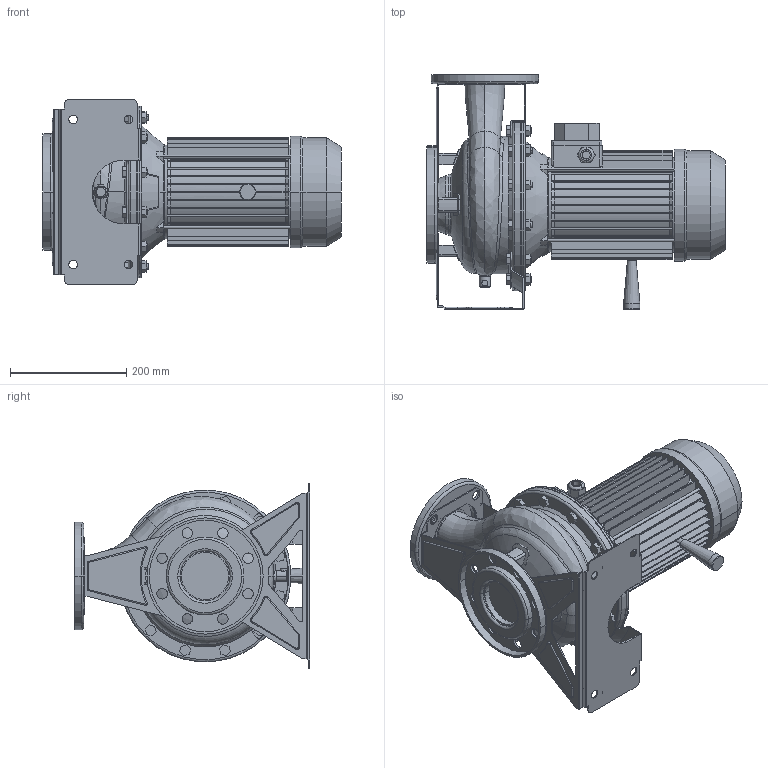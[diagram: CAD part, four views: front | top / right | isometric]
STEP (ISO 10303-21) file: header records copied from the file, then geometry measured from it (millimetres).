
FILE_DESCRIPTION((''),'2;1');
FILE_NAME('3M4_65-200_3_IE2_ASM','2012-03-14T',('Rosa'),('"Ebara Pumps Europe +39.444.706811"'),'PRO/ENGINEER BY PARAMETRIC TECHNOLOGY CORPORATION, 2009360','PRO/ENGINEER BY PARAMETRIC TECHNOLOGY CORPORATION, 2009360','');
FILE_SCHEMA(('AUTOMOTIVE_DESIGN { 1 0 10303 214 1 1 1 1 }'));
Length unit declared in the file: millimetre
Products named in the file (11): CORPO_65-200; ASP_65-200; FLANGIA_DIN_80_8_FORI; MAND_65-200; FLANGIA_DIN_65; BASE_3M_65-200; CORPO_SALDATO_65-200_ASM; SUPPORTO_3M_230_100; MEC_100X170_IE2; 72405; 3M4_65-200_3_IE2_ASM
Assembly tree (10 placements, depth 3):
  3M4_65-200_3_IE2_ASM
    CORPO_SALDATO_65-200_ASM
      CORPO_65-200
      ASP_65-200
      FLANGIA_DIN_80_8_FORI
      MAND_65-200
      FLANGIA_DIN_65
      BASE_3M_65-200
    SUPPORTO_3M_230_100
    MEC_100X170_IE2
    72405
Bounding box: 514 x 405 x 320 mm (x, y, z)
Volume: 11604606.4 mm3; surface area: 1474991.8 mm2
Topology: 12 solids, 12 shells, 1092 faces, 2763 edges, 1762 vertices
Faces by surface type: plane 578, cylinder 313, cone 102, torus 60, bspline 33, sphere 6
Entity records: 47573 total; most frequent: CARTESIAN_POINT 9786, DIRECTION 5680, ORIENTED_EDGE 5526, EDGE_CURVE 2763, PRESENTATION_STYLE_ASSIGNMENT 2760, STYLED_ITEM 2760, CURVE_STYLE 2749, AXIS2_PLACEMENT_3D 2068
